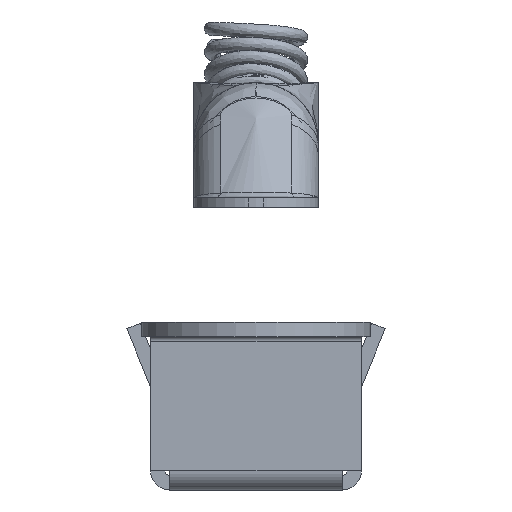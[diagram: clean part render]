
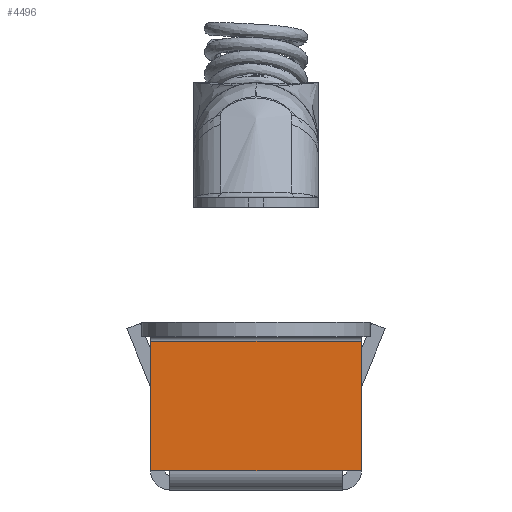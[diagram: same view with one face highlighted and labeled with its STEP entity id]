
A CAD part, left-side view. The second image highlights one B-rep face of the part: STEP entity #4496.
In plain terms, the highlighted planar face has unit normal (-1, 0, 0).
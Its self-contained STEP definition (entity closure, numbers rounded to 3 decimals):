
#478=PLANE($,#4814);
#610=FACE_OUTER_BOUND($,#854,.T.);
#854=EDGE_LOOP($,(#3188,#3189,#3190,#3191,#3192,#3193));
#1132=LINE($,#6191,#1378);
#1185=LINE($,#6337,#1431);
#1187=LINE($,#6345,#1433);
#1199=LINE($,#6374,#1445);
#1205=LINE($,#6388,#1451);
#1213=LINE($,#6408,#1459);
#1378=VECTOR($,#5246,13.5);
#1431=VECTOR($,#5385,2.);
#1433=VECTOR($,#5397,18.);
#1445=VECTOR($,#5431,2.);
#1451=VECTOR($,#5447,13.5);
#1459=VECTOR($,#5475,22.);
#1805=VERTEX_POINT($,#6188);
#1806=VERTEX_POINT($,#6190);
#1854=VERTEX_POINT($,#6331);
#1856=VERTEX_POINT($,#6335);
#1857=VERTEX_POINT($,#6343);
#1866=VERTEX_POINT($,#6387);
#2256=EDGE_CURVE($,#1805,#1806,#1132,.T.);
#2328=EDGE_CURVE($,#1854,#1856,#1185,.T.);
#2333=EDGE_CURVE($,#1856,#1857,#1187,.T.);
#2349=EDGE_CURVE($,#1857,#1806,#1199,.T.);
#2357=EDGE_CURVE($,#1854,#1866,#1205,.T.);
#2368=EDGE_CURVE($,#1805,#1866,#1213,.T.);
#3188=ORIENTED_EDGE($,*,*,#2368,.T.);
#3189=ORIENTED_EDGE($,*,*,#2357,.F.);
#3190=ORIENTED_EDGE($,*,*,#2328,.T.);
#3191=ORIENTED_EDGE($,*,*,#2333,.T.);
#3192=ORIENTED_EDGE($,*,*,#2349,.T.);
#3193=ORIENTED_EDGE($,*,*,#2256,.F.);
#4496=ADVANCED_FACE($,(#610),#478,.F.);
#4814=AXIS2_PLACEMENT_3D($,#6412,#5482,#5483);
#5246=DIRECTION($,(0.,0.,-1.));
#5385=DIRECTION($,(0.,-1.,0.));
#5397=DIRECTION($,(0.,-1.,0.));
#5431=DIRECTION($,(0.,-1.,0.));
#5447=DIRECTION($,(0.,0.,1.));
#5475=DIRECTION($,(0.,1.,0.));
#5482=DIRECTION('center_axis',(1.,0.,0.));
#5483=DIRECTION('ref_axis',(0.,0.,-1.));
#6188=CARTESIAN_POINT('',(-169.,-11.,15.5));
#6190=CARTESIAN_POINT('',(-169.,-11.,2.));
#6191=CARTESIAN_POINT($,(-169.,-11.,-1.644));
#6331=CARTESIAN_POINT('',(-169.,11.,2.));
#6335=CARTESIAN_POINT('',(-169.,9.,2.));
#6337=CARTESIAN_POINT($,(-169.,0.,2.));
#6343=CARTESIAN_POINT('',(-169.,-9.,2.));
#6345=CARTESIAN_POINT($,(-169.,0.,2.));
#6374=CARTESIAN_POINT($,(-169.,0.,2.));
#6387=CARTESIAN_POINT('',(-169.,11.,15.5));
#6388=CARTESIAN_POINT($,(-169.,11.,2.));
#6408=CARTESIAN_POINT($,(-169.,5.5,15.5));
#6412=CARTESIAN_POINT('Origin',(-169.,0.,8.839));
